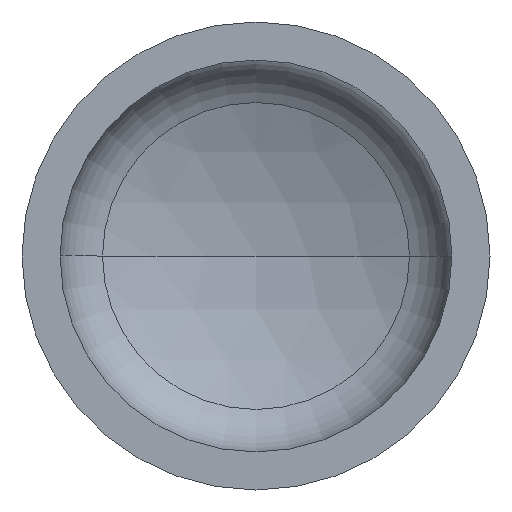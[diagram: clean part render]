
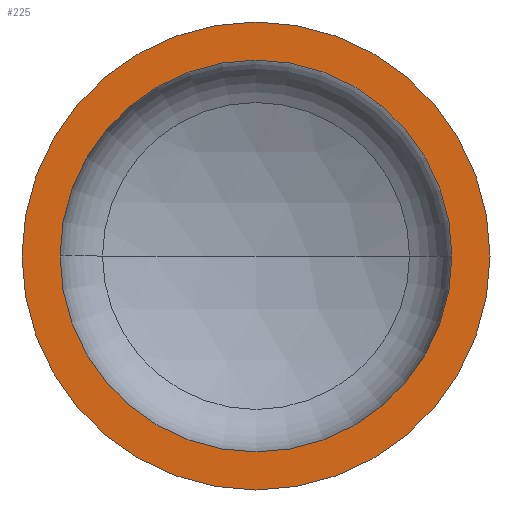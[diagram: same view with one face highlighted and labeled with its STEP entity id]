
A CAD part, front view. The second image highlights one B-rep face of the part: STEP entity #225.
In plain terms, the highlighted planar face has unit normal (0, -1, 0).
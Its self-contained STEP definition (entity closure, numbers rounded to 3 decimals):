
#7 = CARTESIAN_POINT ( 'NONE',  ( 586., 0., 0. ) ) ;
#13 = EDGE_LOOP ( 'NONE', ( #144, #187 ) ) ;
#24 = AXIS2_PLACEMENT_3D ( 'NONE', #243, #157, #156 ) ;
#25 = VERTEX_POINT ( 'NONE', #282 ) ;
#26 = AXIS2_PLACEMENT_3D ( 'NONE', #270, #246, #312 ) ;
#34 = CARTESIAN_POINT ( 'NONE',  ( 0., 0., 0. ) ) ;
#36 = CIRCLE ( 'NONE', #52, 586. ) ;
#41 = ORIENTED_EDGE ( 'NONE', *, *, #75, .F. ) ;
#52 = AXIS2_PLACEMENT_3D ( 'NONE', #34, #367, #370 ) ;
#55 = AXIS2_PLACEMENT_3D ( 'NONE', #334, #332, #353 ) ;
#61 = AXIS2_PLACEMENT_3D ( 'NONE', #226, #239, #238 ) ;
#64 = EDGE_CURVE ( 'NONE', #97, #25, #200, .T. ) ;
#74 = EDGE_CURVE ( 'NONE', #25, #97, #381, .T. ) ;
#75 = EDGE_CURVE ( 'NONE', #103, #128, #36, .T. ) ;
#97 = VERTEX_POINT ( 'NONE', #360 ) ;
#98 = EDGE_LOOP ( 'NONE', ( #41, #111 ) ) ;
#103 = VERTEX_POINT ( 'NONE', #7 ) ;
#111 = ORIENTED_EDGE ( 'NONE', *, *, #347, .F. ) ;
#128 = VERTEX_POINT ( 'NONE', #205 ) ;
#144 = ORIENTED_EDGE ( 'NONE', *, *, #64, .T. ) ;
#156 = DIRECTION ( 'NONE',  ( -1., 0., 0. ) ) ;
#157 = DIRECTION ( 'NONE',  ( 0., 1., 0. ) ) ;
#161 = PLANE ( 'NONE',  #24 ) ;
#187 = ORIENTED_EDGE ( 'NONE', *, *, #74, .T. ) ;
#200 = CIRCLE ( 'NONE', #61, 700. ) ;
#205 = CARTESIAN_POINT ( 'NONE',  ( -586., 0., 0. ) ) ;
#225 = ADVANCED_FACE ( 'NONE', ( #406, #242 ), #161, .F. ) ;
#226 = CARTESIAN_POINT ( 'NONE',  ( 0., 0., 0. ) ) ;
#238 = DIRECTION ( 'NONE',  ( 1., 0., 0. ) ) ;
#239 = DIRECTION ( 'NONE',  ( 0., -1., 0. ) ) ;
#242 = FACE_OUTER_BOUND ( 'NONE', #13, .T. ) ;
#243 = CARTESIAN_POINT ( 'NONE',  ( -700., 0., 0. ) ) ;
#246 = DIRECTION ( 'NONE',  ( 0., -1., 0. ) ) ;
#270 = CARTESIAN_POINT ( 'NONE',  ( 0., 0., 0. ) ) ;
#282 = CARTESIAN_POINT ( 'NONE',  ( -700., 0., 0. ) ) ;
#312 = DIRECTION ( 'NONE',  ( 1., 0., 0. ) ) ;
#332 = DIRECTION ( 'NONE',  ( 0., -1., 0. ) ) ;
#334 = CARTESIAN_POINT ( 'NONE',  ( 0., 0., 0. ) ) ;
#347 = EDGE_CURVE ( 'NONE', #128, #103, #395, .T. ) ;
#353 = DIRECTION ( 'NONE',  ( 1., 0., 0. ) ) ;
#360 = CARTESIAN_POINT ( 'NONE',  ( 700., 0., 0. ) ) ;
#367 = DIRECTION ( 'NONE',  ( 0., -1., 0. ) ) ;
#370 = DIRECTION ( 'NONE',  ( 1., 0., 0. ) ) ;
#381 = CIRCLE ( 'NONE', #55, 700. ) ;
#395 = CIRCLE ( 'NONE', #26, 586. ) ;
#406 = FACE_BOUND ( 'NONE', #98, .T. ) ;
